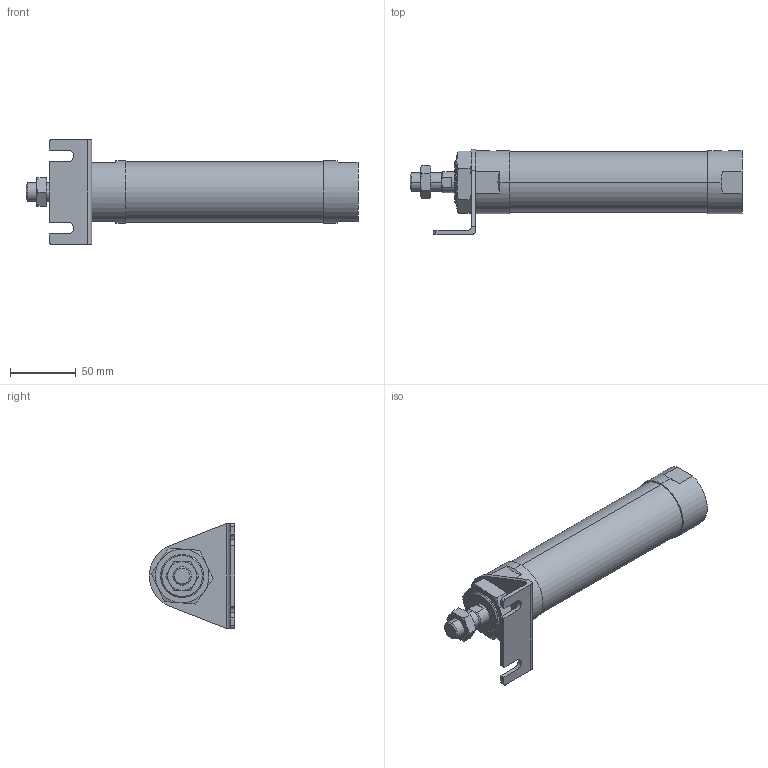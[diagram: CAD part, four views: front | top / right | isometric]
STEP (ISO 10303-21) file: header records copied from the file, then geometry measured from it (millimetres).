
FILE_DESCRIPTION (( 'STEP AP203' ), '1' );
FILE_NAME ('JGND2-40-100-L.STEP', '2016-08-04T03:10:25', ( '' ), ( '' ), 'SwSTEP 2.0', 'SolidWorks 2014', '' );
FILE_SCHEMA (( 'CONFIG_CONTROL_DESIGN' ));
Length unit declared in the file: millimetre
Products named in the file (5): J#2-40-100(P); J#2-40-L; JGND2-40-100-L
Assembly tree (4 placements, depth 2):
  JGND2-40-100-L
    J#2-40-100(P)
    (unnamed)
    (unnamed)
    J#2-40-L
Bounding box: 253 x 65 x 80 mm (x, y, z)
Volume: 386040.4 mm3; surface area: 54381.4 mm2
Topology: 4 solids, 4 shells, 116 faces, 273 edges, 167 vertices
Faces by surface type: plane 47, cylinder 32, torus 24, cone 13
Entity records: 4269 total; most frequent: CARTESIAN_POINT 1150, DIRECTION 548, ORIENTED_EDGE 538, EDGE_CURVE 269, AXIS2_PLACEMENT_3D 219, VERTEX_POINT 167, EDGE_LOOP 128, ADVANCED_FACE 116
